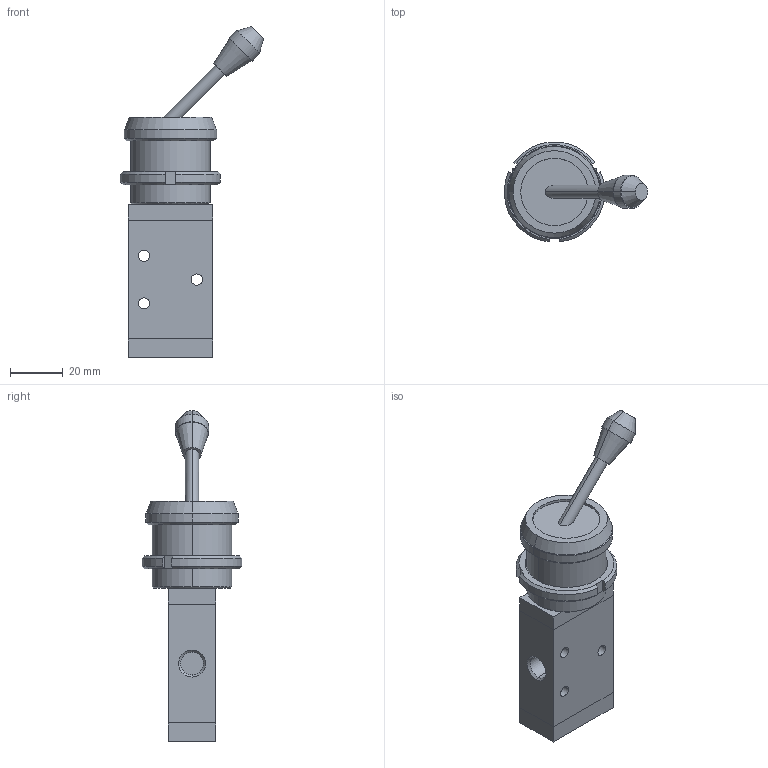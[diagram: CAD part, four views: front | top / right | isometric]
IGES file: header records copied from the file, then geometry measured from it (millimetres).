
Global section: file name: No Iges File Name specified; native system: AutoDesk Inventor R11.0; preprocessor: AutoDesk Inventor Iges Exporter R11.0; author: No Author specified; organization: No Organization specified; date: 20061219.113825; units: millimetre
Bounding box: 54.24 x 37.82 x 125.3 mm (x, y, z)
Volume: 59931.4 mm3; surface area: 15102.7 mm2
Topology: 2 solids, 2 shells, 95 faces, 218 edges, 138 vertices
Faces by surface type: plane 37, bspline 19, cone 18, cylinder 11, revolution 10
